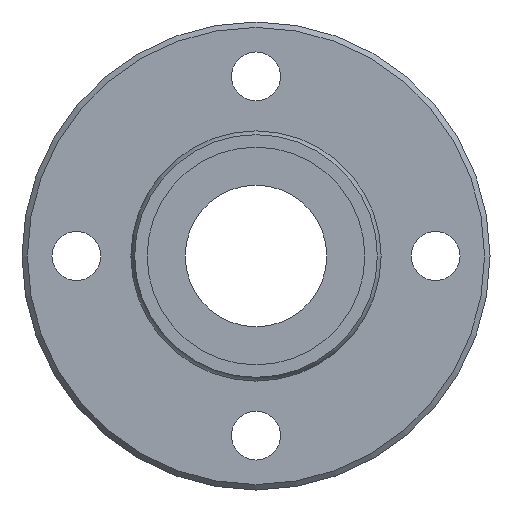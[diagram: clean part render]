
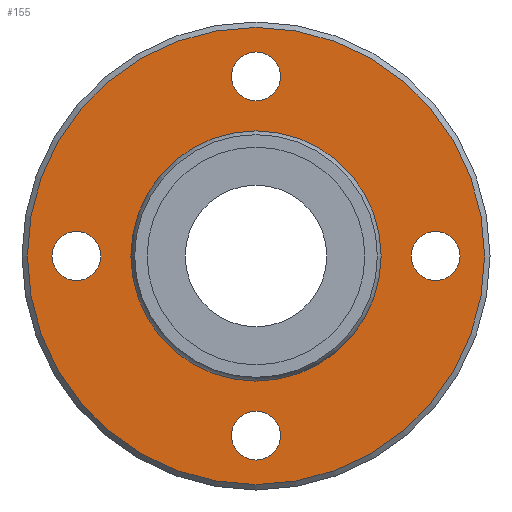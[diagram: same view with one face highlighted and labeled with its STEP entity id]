
A CAD part, left-side view. The second image highlights one B-rep face of the part: STEP entity #155.
In plain terms, the highlighted planar face has unit normal (-1, 0, 0).
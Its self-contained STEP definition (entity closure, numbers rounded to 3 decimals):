
#60=CARTESIAN_POINT('',(6.,0.,21.0));
#61=VERTEX_POINT('',#60);
#62=CARTESIAN_POINT('',(6.,0.0,0.0));
#63=DIRECTION('',(1.0,0.0,0.0));
#64=DIRECTION('',(0.0,0.0,-1.0));
#65=AXIS2_PLACEMENT_3D('',#62,#63,#64);
#66=CIRCLE('',#65,21.0);
#67=EDGE_CURVE('',#61,#61,#66,.T.);
#92=CARTESIAN_POINT('',(6.,0.0,16.393));
#93=DIRECTION('',(-1.0,0.0,0.0));
#94=DIRECTION('',(0.0,0.0,1.0));
#95=AXIS2_PLACEMENT_3D('',#92,#93,#94);
#96=PLANE('',#95);
#97=ORIENTED_EDGE('',*,*,#67,.F.);
#98=EDGE_LOOP('',(#97));
#99=FACE_OUTER_BOUND('',#98,.T.);
#100=CARTESIAN_POINT('',(6.,0.0,11.286));
#101=VERTEX_POINT('',#100);
#102=CARTESIAN_POINT('',(6.,0.0,0.0));
#103=DIRECTION('',(-1.0,0.0,0.0));
#104=DIRECTION('',(0.0,0.0,1.0));
#105=AXIS2_PLACEMENT_3D('',#102,#103,#104);
#106=CIRCLE('',#105,11.286);
#107=EDGE_CURVE('',#101,#101,#106,.T.);
#108=ORIENTED_EDGE('',*,*,#107,.F.);
#109=EDGE_LOOP('',(#108));
#110=FACE_BOUND('',#109,.T.);
#111=CARTESIAN_POINT('',(6.,14.25,0.));
#112=VERTEX_POINT('',#111);
#113=CARTESIAN_POINT('',(6.,16.5,0.));
#114=DIRECTION('',(1.0,0.0,0.0));
#115=DIRECTION('',(0.0,1.0,0.0));
#116=AXIS2_PLACEMENT_3D('',#113,#114,#115);
#117=CIRCLE('',#116,2.25);
#118=EDGE_CURVE('',#112,#112,#117,.T.);
#119=ORIENTED_EDGE('',*,*,#118,.T.);
#120=EDGE_LOOP('',(#119));
#121=FACE_BOUND('',#120,.T.);
#122=CARTESIAN_POINT('',(6.,-18.75,0.));
#123=VERTEX_POINT('',#122);
#124=CARTESIAN_POINT('',(6.,-16.5,0.0));
#125=DIRECTION('',(1.0,0.0,0.0));
#126=DIRECTION('',(0.0,1.0,0.0));
#127=AXIS2_PLACEMENT_3D('',#124,#125,#126);
#128=CIRCLE('',#127,2.25);
#129=EDGE_CURVE('',#123,#123,#128,.T.);
#130=ORIENTED_EDGE('',*,*,#129,.T.);
#131=EDGE_LOOP('',(#130));
#132=FACE_BOUND('',#131,.T.);
#133=CARTESIAN_POINT('',(6.,-2.25,16.5));
#134=VERTEX_POINT('',#133);
#135=CARTESIAN_POINT('',(6.,0.,16.5));
#136=DIRECTION('',(1.0,0.0,0.0));
#137=DIRECTION('',(0.0,1.0,0.0));
#138=AXIS2_PLACEMENT_3D('',#135,#136,#137);
#139=CIRCLE('',#138,2.25);
#140=EDGE_CURVE('',#134,#134,#139,.T.);
#141=ORIENTED_EDGE('',*,*,#140,.T.);
#142=EDGE_LOOP('',(#141));
#143=FACE_BOUND('',#142,.T.);
#144=CARTESIAN_POINT('',(6.,-2.25,-16.5));
#145=VERTEX_POINT('',#144);
#146=CARTESIAN_POINT('',(6.,0.,-16.5));
#147=DIRECTION('',(1.0,0.0,0.0));
#148=DIRECTION('',(0.0,1.0,0.0));
#149=AXIS2_PLACEMENT_3D('',#146,#147,#148);
#150=CIRCLE('',#149,2.25);
#151=EDGE_CURVE('',#145,#145,#150,.T.);
#152=ORIENTED_EDGE('',*,*,#151,.T.);
#153=EDGE_LOOP('',(#152));
#154=FACE_BOUND('',#153,.T.);
#155=ADVANCED_FACE('',(#99,#110,#121,#132,#143,#154),#96,.T.);
